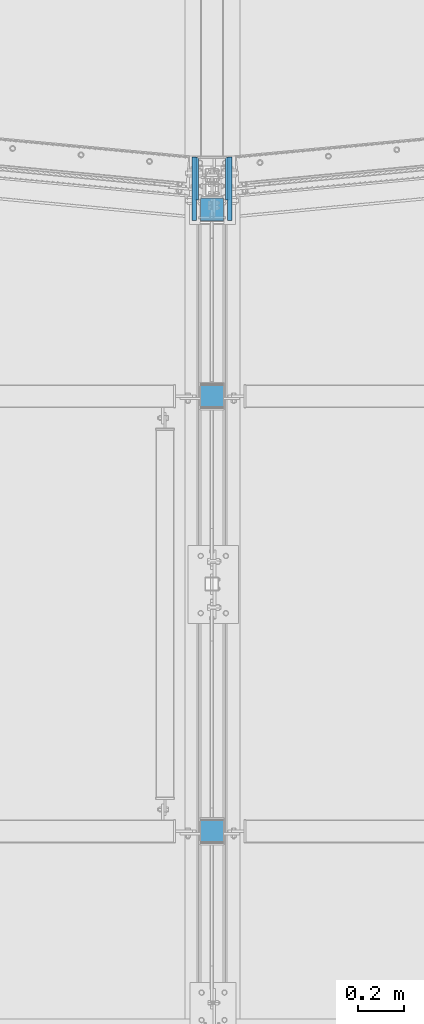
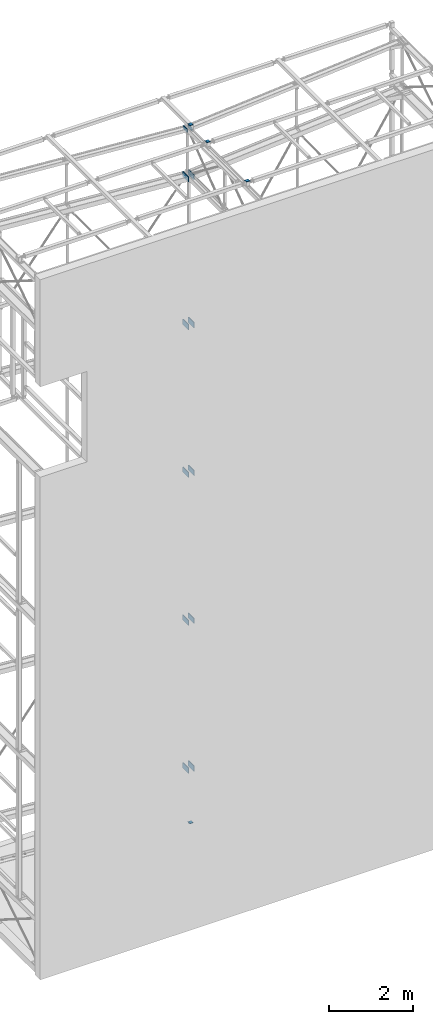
# One storey, part 3 of 271: 17 columns, 15 elements without a shape of their own.
"""IFC2X3 building model written with IfcOpenShell, lengths in millimetres."""

from ifc_helpers import new_model, si_unit, frame, origin_with_axes, origin_2d_with_axis, place, context, subcontext, project, spatial, rectangle, extrude, material, type_object, element, aggregate, save


model = new_model("IFC2X3")

# Units and contexts
model_context = context("Model", 3, precision=1e-05, world=origin_with_axes())
body_context = subcontext(model_context, "Body", "Model", "MODEL_VIEW")
ifc_project = project(units=[si_unit("LENGTHUNIT", "METRE", prefix="MILLI"), si_unit("AREAUNIT", "SQUARE_METRE"), si_unit("VOLUMEUNIT", "CUBIC_METRE"), si_unit("MASSUNIT", "GRAM", prefix="KILO"), si_unit("TIMEUNIT", "SECOND"), si_unit("PLANEANGLEUNIT", "RADIAN"), si_unit("SOLIDANGLEUNIT", "STERADIAN"), si_unit("THERMODYNAMICTEMPERATUREUNIT", "DEGREE_CELSIUS"), si_unit("LUMINOUSINTENSITYUNIT", "LUMEN")], contexts=[model_context])

# Site, building, storey
site_placement = place(None, origin_with_axes())
site = spatial("IfcSite", under=ifc_project, at=site_placement, Name="Undefined", CompositionType="ELEMENT")
building_placement = place(site_placement, origin_with_axes())
building = spatial("IfcBuilding", under=site, at=building_placement, Name="Undefined", CompositionType="ELEMENT")
storey_placement = place(building_placement, origin_with_axes())
storey = spatial("IfcBuildingStorey", under=building, at=storey_placement, Name="Undefined", CompositionType="ELEMENT", Elevation=0.0)

# Assembly, column
assembly_1_placement = place(storey_placement, origin_with_axes())
assembly_1 = element("IfcElementAssembly", 1, at=assembly_1_placement, inside=storey, AssemblyPlace="NOTDEFINED", PredefinedType="RIGID_FRAME")
ifc_material = material(Name="STEEL/S355JR")
column_type_1 = type_object("IfcColumnType", Name="BL4*100", PredefinedType="NOTDEFINED")
column_1_placement = place(assembly_1_placement, frame((6348.37568736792, 3564.92439872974, -193.650000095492), z_axis=(0.0, 1.0, 0.0), x_axis=(-1.0, 0.0, 1.38777878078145e-17)))
column_1 = element("IfcColumn", 2, at=column_1_placement, type_object=column_type_1, material=ifc_material, Name="BLACHA", ObjectType="BL4*100", context=body_context, shape_type="SweptSolid", body=[
    extrude(rectangle(XDim=4.0, YDim=100.0, at=origin_2d_with_axis()), frame((0.0, 0.0, 100.0), z_axis=(0.0, 0.0, -1.0), x_axis=(0.0, 1.0, 0.0)), (0.0, 0.0, 1.0), 100.0),
])
aggregate(assembly_1, [column_1])

# Assembly, columns
assembly_2_placement = place(storey_placement, origin_with_axes())
assembly_2 = element("IfcElementAssembly", 3, at=assembly_2_placement, inside=storey, AssemblyPlace="NOTDEFINED", PredefinedType="RIGID_FRAME")
column_2_placement = place(assembly_2_placement, frame((6348.37568736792, 848.924398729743, 20202.3499999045), z_axis=(0.0, 1.0, 0.0), x_axis=(1.0, 0.0, 0.0)))
column_2 = element("IfcColumn", 4, at=column_2_placement, type_object=column_type_1, material=ifc_material, Name="BLACHA", ObjectType="BL4*100", context=body_context, shape_type="SweptSolid", body=[
    extrude(rectangle(XDim=4.0, YDim=100.0, at=origin_2d_with_axis()), frame((0.0, 0.0, 100.0), z_axis=(0.0, 0.0, -1.0), x_axis=(0.0, 1.0, 0.0)), (0.0, 0.0, 1.0), 100.0),
])
column_3_placement = place(assembly_2_placement, frame((6348.37568736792, 2748.92439872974, 20202.3499999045), z_axis=(0.0, 1.0, 0.0), x_axis=(1.0, 0.0, 0.0)))
column_3 = element("IfcColumn", 5, at=column_3_placement, type_object=column_type_1, material=ifc_material, Name="BLACHA", ObjectType="BL4*100", context=body_context, shape_type="SweptSolid", body=[
    extrude(rectangle(XDim=4.0, YDim=100.0, at=origin_2d_with_axis()), frame((0.0, 0.0, 100.0), z_axis=(0.0, 0.0, -1.0), x_axis=(0.0, 1.0, 0.0)), (0.0, 0.0, 1.0), 100.0),
])

# Assembly, column
assembly_3_placement = place(storey_placement, origin_with_axes())
assembly_3 = element("IfcElementAssembly", 6, at=assembly_3_placement, inside=storey, AssemblyPlace="NOTDEFINED", PredefinedType="RIGID_FRAME")
column_4_placement = place(assembly_3_placement, frame((6348.37568736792, 3564.92439872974, -193.650000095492), z_axis=(0.0, 1.0, 0.0), x_axis=(-1.0, 0.0, 1.38777878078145e-17)))
column_4 = element("IfcColumn", 7, at=column_4_placement, type_object=column_type_1, material=ifc_material, Name="BLACHA", ObjectType="BL4*100", context=body_context, shape_type="SweptSolid", body=[
    extrude(rectangle(XDim=4.0, YDim=100.0, at=origin_2d_with_axis()), frame((0.0, 0.0, 100.0), z_axis=(0.0, 0.0, -1.0), x_axis=(0.0, 1.0, 0.0)), (0.0, 0.0, 1.0), 100.0),
])
aggregate(assembly_3, [column_4])

# Column
column_5_placement = place(assembly_2_placement, frame((6348.37568736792, 3564.92439872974, 20202.3499999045), z_axis=(0.0, 1.0, 0.0), x_axis=(1.0, 0.0, 0.0)))
column_5 = element("IfcColumn", 8, at=column_5_placement, type_object=column_type_1, material=ifc_material, Name="BLACHA", ObjectType="BL4*100", context=body_context, shape_type="SweptSolid", body=[
    extrude(rectangle(XDim=4.0, YDim=100.0, at=origin_2d_with_axis()), frame((0.0, 0.0, 100.0), z_axis=(0.0, 0.0, -1.0), x_axis=(0.0, 1.0, 0.0)), (0.0, 0.0, 1.0), 100.0),
])

aggregate(assembly_2, [column_2, column_3, column_5])

# Assembly, column
assembly_4_placement = place(storey_placement, origin_with_axes())
assembly_4 = element("IfcElementAssembly", 9, at=assembly_4_placement, inside=storey, AssemblyPlace="NOTDEFINED", PredefinedType="RIGID_FRAME")
column_type_2 = type_object("IfcColumnType", Name="BL16*105", PredefinedType="NOTDEFINED")
column_6_placement = place(assembly_4_placement, frame((6414.37568709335, 3656.67244810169, 20004.3499999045), z_axis=(0.0, 1.0, 0.0), x_axis=(0.0, 0.0, 1.0)))
column_6 = element("IfcColumn", 10, at=column_6_placement, type_object=column_type_2, material=ifc_material, Name="BLACHA", ObjectType="BL16*105", context=body_context, shape_type="SweptSolid", body=[
    extrude(rectangle(XDim=16.0, YDim=105.0, at=origin_2d_with_axis()), frame((0.0, 0.0, 185.832499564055), z_axis=(0.0, 0.0, -1.0), x_axis=(0.0, 1.0, 0.0)), (0.0, 0.0, 1.0), 185.83),
])
aggregate(assembly_4, [column_6])

assembly_5_placement = place(storey_placement, origin_with_axes())
assembly_5 = element("IfcElementAssembly", 11, at=assembly_5_placement, inside=storey, AssemblyPlace="NOTDEFINED", PredefinedType="RIGID_FRAME")
column_7_placement = place(assembly_5_placement, frame((6282.37568709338, 3656.67244815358, 20004.3499999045), z_axis=(0.0, 1.0, 0.0), x_axis=(0.0, 0.0, -1.0)))
column_7 = element("IfcColumn", 12, at=column_7_placement, type_object=column_type_2, material=ifc_material, Name="BLACHA", ObjectType="BL16*105", context=body_context, shape_type="SweptSolid", body=[
    extrude(rectangle(XDim=16.0, YDim=105.0, at=origin_2d_with_axis()), frame((0.0, 0.0, 185.832499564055), z_axis=(0.0, 0.0, -1.0), x_axis=(0.0, 1.0, 0.0)), (0.0, 0.0, 1.0), 185.83),
])
aggregate(assembly_5, [column_7])

assembly_6_placement = place(storey_placement, origin_with_axes())
assembly_6 = element("IfcElementAssembly", 13, at=assembly_6_placement, inside=storey, AssemblyPlace="NOTDEFINED", PredefinedType="RIGID_FRAME")
column_type_3 = type_object("IfcColumnType", Name="BL20*150", PredefinedType="NOTDEFINED")
column_8_placement = place(assembly_6_placement, frame((6270.87568709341, 3567.55087164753, 18644.3499999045), z_axis=(0.0, 1.0, 0.0), x_axis=(0.0, 0.0, -1.0)))
column_8 = element("IfcColumn", 14, at=column_8_placement, type_object=column_type_3, material=ifc_material, Name="BLACHA", ObjectType="BL20*150", context=body_context, shape_type="SweptSolid", body=[
    extrude(rectangle(XDim=20.0, YDim=150.0, at=origin_2d_with_axis()), frame((0.0, 0.0, 276.227660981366), z_axis=(0.0, 0.0, -1.0), x_axis=(0.0, 1.0, 0.0)), (0.0, 0.0, 1.0), 276.23),
])
aggregate(assembly_6, [column_8])

assembly_7_placement = place(storey_placement, origin_with_axes())
assembly_7 = element("IfcElementAssembly", 15, at=assembly_7_placement, inside=storey, AssemblyPlace="NOTDEFINED", PredefinedType="RIGID_FRAME")
column_9_placement = place(assembly_7_placement, frame((6270.87568709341, 3567.55087164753, 14324.3499999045), z_axis=(0.0, 1.0, 0.0), x_axis=(0.0, 0.0, -1.0)))
column_9 = element("IfcColumn", 16, at=column_9_placement, type_object=column_type_3, material=ifc_material, Name="BLACHA", ObjectType="BL20*150", context=body_context, shape_type="SweptSolid", body=[
    extrude(rectangle(XDim=20.0, YDim=150.0, at=origin_2d_with_axis()), frame((0.0, 0.0, 276.227660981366), z_axis=(0.0, 0.0, -1.0), x_axis=(0.0, 1.0, 0.0)), (0.0, 0.0, 1.0), 276.23),
])
aggregate(assembly_7, [column_9])

assembly_8_placement = place(storey_placement, origin_with_axes())
assembly_8 = element("IfcElementAssembly", 17, at=assembly_8_placement, inside=storey, AssemblyPlace="NOTDEFINED", PredefinedType="RIGID_FRAME")
column_10_placement = place(assembly_8_placement, frame((6270.87568709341, 3567.55087164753, 5684.34999990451), z_axis=(0.0, 1.0, 0.0), x_axis=(0.0, 0.0, -1.0)))
column_10 = element("IfcColumn", 18, at=column_10_placement, type_object=column_type_3, material=ifc_material, Name="BLACHA", ObjectType="BL20*150", context=body_context, shape_type="SweptSolid", body=[
    extrude(rectangle(XDim=20.0, YDim=150.0, at=origin_2d_with_axis()), frame((0.0, 0.0, 276.227660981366), z_axis=(0.0, 0.0, -1.0), x_axis=(0.0, 1.0, 0.0)), (0.0, 0.0, 1.0), 276.23),
])
aggregate(assembly_8, [column_10])

assembly_9_placement = place(storey_placement, origin_with_axes())
assembly_9 = element("IfcElementAssembly", 19, at=assembly_9_placement, inside=storey, AssemblyPlace="NOTDEFINED", PredefinedType="RIGID_FRAME")
column_11_placement = place(assembly_9_placement, frame((6270.87568709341, 3567.55087164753, 1364.34999990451), z_axis=(0.0, 1.0, 0.0), x_axis=(0.0, 0.0, -1.0)))
column_11 = element("IfcColumn", 20, at=column_11_placement, type_object=column_type_3, material=ifc_material, Name="BLACHA", ObjectType="BL20*150", context=body_context, shape_type="SweptSolid", body=[
    extrude(rectangle(XDim=20.0, YDim=150.0, at=origin_2d_with_axis()), frame((0.0, 0.0, 276.227660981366), z_axis=(0.0, 0.0, -1.0), x_axis=(0.0, 1.0, 0.0)), (0.0, 0.0, 1.0), 276.23),
])
aggregate(assembly_9, [column_11])

assembly_10_placement = place(storey_placement, origin_with_axes())
assembly_10 = element("IfcElementAssembly", 21, at=assembly_10_placement, inside=storey, AssemblyPlace="NOTDEFINED", PredefinedType="RIGID_FRAME")
column_12_placement = place(assembly_10_placement, frame((6425.87568709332, 3567.55087159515, 18644.3499999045), z_axis=(0.0, 1.0, 0.0), x_axis=(0.0, 0.0, 1.0)))
column_12 = element("IfcColumn", 22, at=column_12_placement, type_object=column_type_3, material=ifc_material, Name="BLACHA", ObjectType="BL20*150", context=body_context, shape_type="SweptSolid", body=[
    extrude(rectangle(XDim=20.0, YDim=150.0, at=origin_2d_with_axis()), frame((0.0, 0.0, 276.227660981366), z_axis=(0.0, 0.0, -1.0), x_axis=(0.0, 1.0, 0.0)), (0.0, 0.0, 1.0), 276.23),
])
aggregate(assembly_10, [column_12])

assembly_11_placement = place(storey_placement, origin_with_axes())
assembly_11 = element("IfcElementAssembly", 23, at=assembly_11_placement, inside=storey, AssemblyPlace="NOTDEFINED", PredefinedType="RIGID_FRAME")
column_13_placement = place(assembly_11_placement, frame((6425.87568709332, 3567.55087159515, 14324.3499999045), z_axis=(0.0, 1.0, 0.0), x_axis=(0.0, 0.0, 1.0)))
column_13 = element("IfcColumn", 24, at=column_13_placement, type_object=column_type_3, material=ifc_material, Name="BLACHA", ObjectType="BL20*150", context=body_context, shape_type="SweptSolid", body=[
    extrude(rectangle(XDim=20.0, YDim=150.0, at=origin_2d_with_axis()), frame((0.0, 0.0, 276.227660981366), z_axis=(0.0, 0.0, -1.0), x_axis=(0.0, 1.0, 0.0)), (0.0, 0.0, 1.0), 276.23),
])
aggregate(assembly_11, [column_13])

assembly_12_placement = place(storey_placement, origin_with_axes())
assembly_12 = element("IfcElementAssembly", 25, at=assembly_12_placement, inside=storey, AssemblyPlace="NOTDEFINED", PredefinedType="RIGID_FRAME")
column_14_placement = place(assembly_12_placement, frame((6425.87568709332, 3567.55087159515, 5684.34999990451), z_axis=(0.0, 1.0, 0.0), x_axis=(0.0, 0.0, 1.0)))
column_14 = element("IfcColumn", 26, at=column_14_placement, type_object=column_type_3, material=ifc_material, Name="BLACHA", ObjectType="BL20*150", context=body_context, shape_type="SweptSolid", body=[
    extrude(rectangle(XDim=20.0, YDim=150.0, at=origin_2d_with_axis()), frame((0.0, 0.0, 276.227660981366), z_axis=(0.0, 0.0, -1.0), x_axis=(0.0, 1.0, 0.0)), (0.0, 0.0, 1.0), 276.23),
])
aggregate(assembly_12, [column_14])

assembly_13_placement = place(storey_placement, origin_with_axes())
assembly_13 = element("IfcElementAssembly", 27, at=assembly_13_placement, inside=storey, AssemblyPlace="NOTDEFINED", PredefinedType="RIGID_FRAME")
column_15_placement = place(assembly_13_placement, frame((6425.87568709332, 3567.55087159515, 1364.34999990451), z_axis=(0.0, 1.0, 0.0), x_axis=(0.0, 0.0, 1.0)))
column_15 = element("IfcColumn", 28, at=column_15_placement, type_object=column_type_3, material=ifc_material, Name="BLACHA", ObjectType="BL20*150", context=body_context, shape_type="SweptSolid", body=[
    extrude(rectangle(XDim=20.0, YDim=150.0, at=origin_2d_with_axis()), frame((0.0, 0.0, 276.227660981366), z_axis=(0.0, 0.0, -1.0), x_axis=(0.0, 1.0, 0.0)), (0.0, 0.0, 1.0), 276.23),
])
aggregate(assembly_13, [column_15])

assembly_14_placement = place(storey_placement, origin_with_axes())
assembly_14 = element("IfcElementAssembly", 29, at=assembly_14_placement, inside=storey, AssemblyPlace="NOTDEFINED", PredefinedType="RIGID_FRAME")
column_16_placement = place(assembly_14_placement, frame((6425.87568709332, 3567.55087159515, 10004.3499999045), z_axis=(0.0, 1.0, 0.0), x_axis=(0.0, 0.0, 1.0)))
column_16 = element("IfcColumn", 30, at=column_16_placement, type_object=column_type_3, material=ifc_material, Name="BLACHA", ObjectType="BL20*150", context=body_context, shape_type="SweptSolid", body=[
    extrude(rectangle(XDim=20.0, YDim=150.0, at=origin_2d_with_axis()), frame((0.0, 0.0, 276.227660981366), z_axis=(0.0, 0.0, -1.0), x_axis=(0.0, 1.0, 0.0)), (0.0, 0.0, 1.0), 276.23),
])
aggregate(assembly_14, [column_16])

assembly_15_placement = place(storey_placement, origin_with_axes())
assembly_15 = element("IfcElementAssembly", 31, at=assembly_15_placement, inside=storey, AssemblyPlace="NOTDEFINED", PredefinedType="RIGID_FRAME")
column_17_placement = place(assembly_15_placement, frame((6270.87568709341, 3567.55087164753, 10004.3499999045), z_axis=(0.0, 1.0, 0.0), x_axis=(0.0, 0.0, -1.0)))
column_17 = element("IfcColumn", 32, at=column_17_placement, type_object=column_type_3, material=ifc_material, Name="BLACHA", ObjectType="BL20*150", context=body_context, shape_type="SweptSolid", body=[
    extrude(rectangle(XDim=20.0, YDim=150.0, at=origin_2d_with_axis()), frame((0.0, 0.0, 276.227660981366), z_axis=(0.0, 0.0, -1.0), x_axis=(0.0, 1.0, 0.0)), (0.0, 0.0, 1.0), 276.23),
])
aggregate(assembly_15, [column_17])

save(model, "model.ifc")
